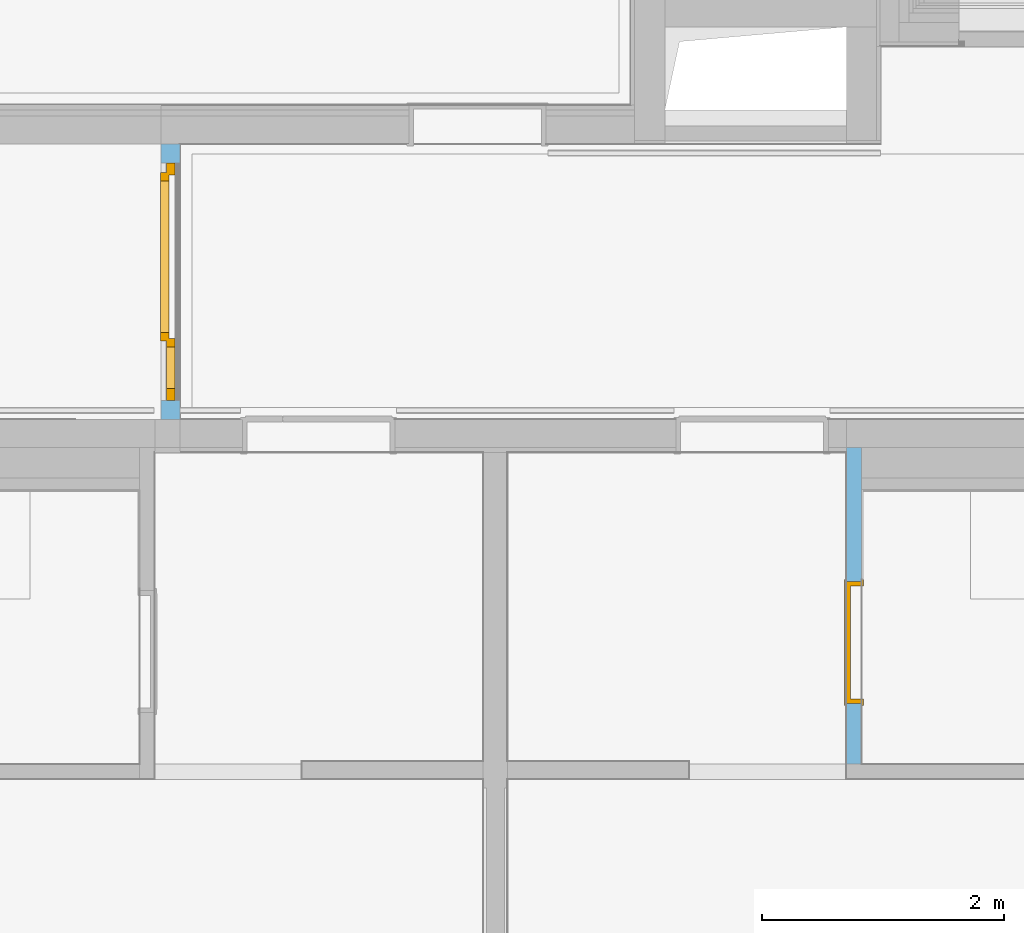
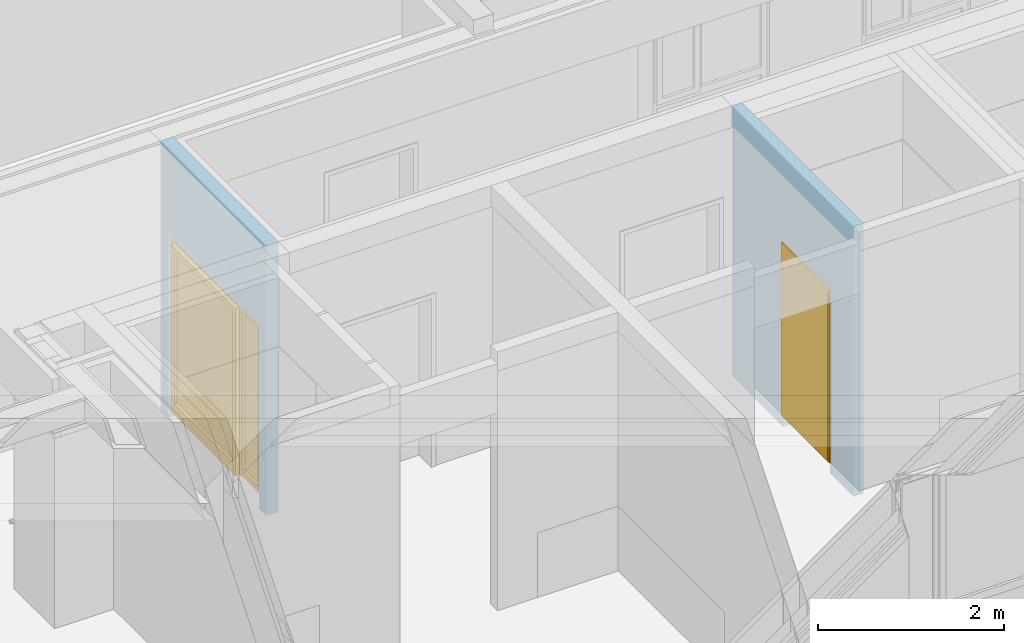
# One storey, part 114 of 222: 2 doors, 2 openings, plus 2 elements that do not belong to this part.
"""IFC4 building model written with IfcOpenShell, lengths in metres."""

import ifcopenshell
import ifcopenshell.guid

model = None  # the IFC model being written
_history = None  # IfcOwnerHistory: only IFC2X3 demands one
_inside = {}  # id of a spatial element -> (the spatial element, [elements in it])
_under = {}  # id of a project, library or spatial element -> (it, [spatial elements below it])
_declared = {}  # id of a project -> (the project, [libraries it declares])
_typed = {}  # id of a type object -> (the type object, [elements of that type])
_made_of = {}  # id of a material, layer set ... -> (it, [elements and type objects made of it])


def new_model(schema):
    """Start an empty IFC model of exactly this schema.

    Asked for "IFC4X3", IfcOpenShell would pick the latest addendum, in which some entities
    have other attributes; the version numbers below select the first issue.
    IFC2X3 requires an IfcOwnerHistory on every rooted entity: one is made here for all.
    """
    global model, _history
    if schema == "IFC4X3":
        model = ifcopenshell.file(schema_version=(4, 3, 0, 0))
    else:
        model = ifcopenshell.file(schema=schema)
    _inside.clear()
    _under.clear()
    _declared.clear()
    _typed.clear()
    _made_of.clear()
    _history = None
    if model.schema == "IFC2X3":
        org = make("IfcOrganization", Name="unknown")
        user = make(
            "IfcPersonAndOrganization",
            ThePerson=make("IfcPerson", FamilyName="unknown"),
            TheOrganization=org,
        )
        app = make(
            "IfcApplication",
            ApplicationDeveloper=org,
            Version="unknown",
            ApplicationFullName="unknown",
            ApplicationIdentifier="unknown",
        )
        _history = make(
            "IfcOwnerHistory",
            OwningUser=user,
            OwningApplication=app,
            ChangeAction="ADDED",
            CreationDate=0,
        )
    return model


def make(cls, **values):
    """One entity of the class cls with the attributes given. An attribute that is None is left unset."""
    return model.create_entity(
        cls, **{name: value for name, value in values.items() if value is not None}
    )


def entity(cls, *values):
    """Any entity or typed value of the class cls, its attributes in the order of the schema. None: left unset."""
    e = model.create_entity(cls)
    for i, value in enumerate(values):
        if value is not None:
            e[i] = value
    return e


def rooted(cls, **values):
    """An entity with a GlobalId (a new one), such as an element, a storey or a relation."""
    return make(cls, GlobalId=ifcopenshell.guid.new(), OwnerHistory=_history, **values)


def si_unit(unit_type, name, prefix=None):
    """IfcSIUnit, for example si_unit("LENGTHUNIT", "METRE", prefix="MILLI")."""
    return make("IfcSIUnit", UnitType=unit_type, Prefix=prefix, Name=name)


def converted_unit(unit_type, name, factor, base, dimensions=None, offset=None):
    """IfcConversionBasedUnit, such as the inch: factor (a typed value) times the base unit."""
    return make(
        "IfcConversionBasedUnit"
        if offset is None
        else "IfcConversionBasedUnitWithOffset",
        ConversionOffset=offset,
        Dimensions=None
        if dimensions is None
        else entity("IfcDimensionalExponents", *dimensions),
        UnitType=unit_type,
        Name=name,
        ConversionFactor=make(
            "IfcMeasureWithUnit", ValueComponent=factor, UnitComponent=base
        ),
    )


def derived_unit(unit_type, elements):
    """IfcDerivedUnit: a product of units, each with its exponent."""
    return make(
        "IfcDerivedUnit",
        Elements=[
            make("IfcDerivedUnitElement", Unit=unit, Exponent=power)
            for unit, power in elements
        ],
        UnitType=unit_type,
    )


def assignment(units):
    """IfcUnitAssignment: the units of a project."""
    return None if units is None else make("IfcUnitAssignment", Units=units)


def point(xyz):
    """IfcCartesianPoint."""
    return None if xyz is None else make("IfcCartesianPoint", Coordinates=xyz)


def direction(xyz):
    """IfcDirection."""
    return None if xyz is None else make("IfcDirection", DirectionRatios=xyz)


def frame(location, z_axis=None, x_axis=None):
    """IfcAxis2Placement3D, a coordinate frame: its origin and axes. An axis left out is left unset."""
    return make(
        "IfcAxis2Placement3D",
        Location=point(location),
        Axis=direction(z_axis),
        RefDirection=direction(x_axis),
    )


def frame_2d(location, x_axis=None):
    """IfcAxis2Placement2D, a coordinate frame in the plane: its origin and x axis."""
    return make(
        "IfcAxis2Placement2D", Location=point(location), RefDirection=direction(x_axis)
    )


def origin():
    """The frame at (0, 0, 0) with its axes left unset."""
    return frame((0.0, 0.0, 0.0))


def origin_with_axes():
    """The frame at (0, 0, 0) with the z axis (0, 0, 1) and the x axis (1, 0, 0) written out."""
    return frame((0.0, 0.0, 0.0), z_axis=(0.0, 0.0, 1.0), x_axis=(1.0, 0.0, 0.0))


def place(relative_to, where):
    """IfcLocalPlacement: puts the frame where relative to a parent placement (None: the world)."""
    return make(
        "IfcLocalPlacement", PlacementRelTo=relative_to, RelativePlacement=where
    )


def context(
    kind, dimensions, precision=None, world=None, true_north=None, identifier=None
):
    """IfcGeometricRepresentationContext, for example the 3D "Model" context."""
    return make(
        "IfcGeometricRepresentationContext",
        ContextIdentifier=identifier,
        ContextType=kind,
        CoordinateSpaceDimension=dimensions,
        Precision=precision,
        WorldCoordinateSystem=world,
        TrueNorth=true_north,
    )


def subcontext(parent, identifier, kind, view, scale=None):
    """IfcGeometricRepresentationSubContext, for example "Body" below "Model"."""
    return make(
        "IfcGeometricRepresentationSubContext",
        ContextIdentifier=identifier,
        ContextType=kind,
        ParentContext=parent,
        TargetScale=scale,
        TargetView=view,
    )


def project(units=None, contexts=None):
    """IfcProject with its units and contexts."""
    return rooted(
        "IfcProject",
        Name="project",
        RepresentationContexts=contexts,
        UnitsInContext=assignment(units),
    )


def spatial(cls, under=None, at=None, **own):
    """A site, building, storey or space (cls), placed at a placement, below another one or the project."""
    s = rooted(cls, ObjectPlacement=at, **own)
    if under is not None:
        _under.setdefault(under.id(), (under, []))[1].append(s)
    return s


def polyline(points):
    """IfcPolyline through the points."""
    return make("IfcPolyline", Points=[point(p) for p in points])


def profile(cls, at=None, kind="AREA", **sizes):
    """A parametric profile (cls). Its sizes go by their IFC names, for example OverallWidth=200.0."""
    return make(cls, ProfileType=kind, Position=at, **sizes)


def rectangle(**sizes):
    """IfcRectangleProfileDef."""
    return profile("IfcRectangleProfileDef", **sizes)


def outline(outer, holes=None, kind="AREA"):
    """IfcArbitraryClosedProfileDef: a profile drawn as a closed curve; with holes, ...WithVoids."""
    if holes is None:
        return make("IfcArbitraryClosedProfileDef", ProfileType=kind, OuterCurve=outer)
    return make(
        "IfcArbitraryProfileDefWithVoids",
        ProfileType=kind,
        OuterCurve=outer,
        InnerCurves=holes,
    )


def extrude(swept, where, along, depth):
    """IfcExtrudedAreaSolid: the profile swept, set in the frame where, extruded along a direction by depth."""
    return make(
        "IfcExtrudedAreaSolid",
        SweptArea=swept,
        Position=where,
        ExtrudedDirection=direction(along),
        Depth=depth,
    )


def faces_of(points, faces, orient=None, outer=None):
    """IfcFace entities. A face is a list of loops; a loop is a list of indices into points, from 0.

    orient and outer hold one flag for each loop. By default every Orientation is true, the
    first loop of a face is its IfcFaceOuterBound and the others are IfcFaceBound.
    """
    made = []
    for i, loops in enumerate(faces):
        bounds = []
        for j, loop in enumerate(loops):
            is_outer = j == 0 if outer is None else outer[i][j]
            bounds.append(
                make(
                    "IfcFaceOuterBound" if is_outer else "IfcFaceBound",
                    Bound=make("IfcPolyLoop", Polygon=[points[k] for k in loop]),
                    Orientation=True if orient is None else orient[i][j],
                )
            )
        made.append(make("IfcFace", Bounds=bounds))
    return made


def closed_shell(faces, orient=None, outer=None):
    """The faces of one IfcClosedShell. faceted_brep and surface_model build it on their shared points."""
    return ("IfcClosedShell", faces, orient, outer)


def open_shell(faces, orient=None, outer=None):
    """The faces of one IfcOpenShell. surface_model builds it on its shared points."""
    return ("IfcOpenShell", faces, orient, outer)


def faceted_brep(points, faces, orient=None, outer=None, voids=None):
    """IfcFacetedBrep: a solid bounded by flat faces; with voids (closed shells), ...WithVoids."""
    shared = [point(p) for p in points]
    hull = make("IfcClosedShell", CfsFaces=faces_of(shared, faces, orient, outer))
    if voids is None:
        return make("IfcFacetedBrep", Outer=hull)
    return make(
        "IfcFacetedBrepWithVoids",
        Outer=hull,
        Voids=[
            make(cls, CfsFaces=faces_of(shared, fs, o, b)) for cls, fs, o, b in voids
        ],
    )


def surface_model(cls, points, shells):
    """IfcFaceBasedSurfaceModel or IfcShellBasedSurfaceModel (cls): surfaces that need not close."""
    shared = [point(p) for p in points]
    made = [make(c, CfsFaces=faces_of(shared, fs, o, b)) for c, fs, o, b in shells]
    if cls == "IfcFaceBasedSurfaceModel":
        return make(cls, FbsmFaces=made)
    return make(cls, SbsmBoundary=made)


def shape(context_of_items, identifier, shape_type, items):
    """IfcShapeRepresentation: the items that make up one representation, for example the "Body"."""
    return make(
        "IfcShapeRepresentation",
        ContextOfItems=context_of_items,
        RepresentationIdentifier=identifier,
        RepresentationType=shape_type,
        Items=items,
    )


def source(mapping_origin, context_of_items, identifier, shape_type, items):
    """IfcRepresentationMap: a shape defined once, which mapped items show again and again."""
    return make(
        "IfcRepresentationMap",
        MappingOrigin=mapping_origin,
        MappedRepresentation=shape(context_of_items, identifier, shape_type, items),
    )


def transform(
    local_origin,
    x_axis=None,
    y_axis=None,
    z_axis=None,
    scale=None,
    scale2=None,
    scale3=None,
    uniform=True,
):
    """IfcCartesianTransformationOperator3D, or its non-uniform kind. x_axis, y_axis, z_axis: its Axis1, 2, 3."""
    if uniform:
        return make(
            "IfcCartesianTransformationOperator3D",
            Axis1=direction(x_axis),
            Axis2=direction(y_axis),
            LocalOrigin=point(local_origin),
            Scale=scale,
            Axis3=direction(z_axis),
        )
    return make(
        "IfcCartesianTransformationOperator3DnonUniform",
        Axis1=direction(x_axis),
        Axis2=direction(y_axis),
        LocalOrigin=point(local_origin),
        Scale=scale,
        Axis3=direction(z_axis),
        Scale2=scale2,
        Scale3=scale3,
    )


def mapped(mapping_source, mapping_target):
    """IfcMappedItem: shows the shape of a source again, moved by a transform."""
    return make(
        "IfcMappedItem", MappingSource=mapping_source, MappingTarget=mapping_target
    )


def material(Name=None, Category=None):
    """IfcMaterial."""
    return make("IfcMaterial", Name=Name, Category=Category)


def made_of(thing, what):
    """Note that an element or type object is made of a material, layer set ...; save() writes the relation."""
    if what is not None:
        _made_of.setdefault(what.id(), (what, []))[1].append(thing)
    return thing


def type_object(cls, material=None, **own):
    """A type object (cls), such as IfcWallType, which elements share."""
    return made_of(rooted(cls, **own), material)


def element(
    cls,
    number,
    at=None,
    inside=None,
    cuts=None,
    type_object=None,
    material=None,
    context=None,
    identifier="Body",
    shape_type=None,
    held_by="IfcProductDefinitionShape",
    body=None,
    shapes=None,
    **own,
):
    """One element of the class cls, such as IfcWall. Its Tag is "e" and its number.

    at: its placement. inside: the storey or other place that contains it. cuts: it is an
    opening in that element (IfcRelVoidsElement). A single representation is given by context,
    identifier, shape_type and body (its items); several are given by shapes. held_by: the class
    of the entity that holds the representations. save() writes the other relations.
    """
    e = rooted(cls, Tag="e%d" % number, ObjectPlacement=at, **own)
    if body is not None:
        shapes = [shape(context, identifier, shape_type, body)]
    if shapes is not None:
        e.Representation = make(held_by, Representations=shapes)
    if inside is not None:
        _inside.setdefault(inside.id(), (inside, []))[1].append(e)
    if cuts is not None:
        rooted(
            "IfcRelVoidsElement", RelatingBuildingElement=cuts, RelatedOpeningElement=e
        )
    if type_object is not None:
        _typed.setdefault(type_object.id(), (type_object, []))[1].append(e)
    return made_of(e, material)


def fill(opening, filler):
    """IfcRelFillsElement: the door or window that sits in an opening."""
    return rooted(
        "IfcRelFillsElement",
        RelatingOpeningElement=opening,
        RelatedBuildingElement=filler,
    )


def aggregate(whole, parts):
    """IfcRelAggregates: a whole, such as a stair, and the parts it consists of."""
    return rooted("IfcRelAggregates", RelatingObject=whole, RelatedObjects=parts)


def save(model, path):
    """Write the relations noted so far, then the file.

    IfcRelAggregates (storeys below a building ...), IfcRelContainedInSpatialStructure (elements
    in a storey), IfcRelDefinesByType, IfcRelAssociatesMaterial and IfcRelDeclares: one each for
    every whole, place, type object, material and project.
    """
    for whole, parts in _under.values():
        aggregate(whole, parts)
    for where, things in _inside.values():
        rooted(
            "IfcRelContainedInSpatialStructure",
            RelatedElements=things,
            RelatingStructure=where,
        )
    for kind, things in _typed.values():
        rooted("IfcRelDefinesByType", RelatedObjects=things, RelatingType=kind)
    for what, things in _made_of.values():
        rooted("IfcRelAssociatesMaterial", RelatedObjects=things, RelatingMaterial=what)
    for by, libraries in _declared.values():
        rooted("IfcRelDeclares", RelatingContext=by, RelatedDefinitions=libraries)
    model.write(path)


model = new_model("IFC4")

# Units and contexts
model_context = context("Model", 3, precision=1e-05, world=origin())
body_context = subcontext(model_context, "Body", "Model", "MODEL_VIEW")
ifc_project = project(units=[si_unit("LENGTHUNIT", "METRE"), si_unit("AREAUNIT", "SQUARE_METRE"), si_unit("VOLUMEUNIT", "CUBIC_METRE"), si_unit("MASSUNIT", "GRAM", prefix="KILO"), converted_unit("PLANEANGLEUNIT", "DEGREE", entity("IfcPlaneAngleMeasure", 0.0174532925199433), si_unit("PLANEANGLEUNIT", "RADIAN"), dimensions=[0, 0, 0, 0, 0, 0, 0]), derived_unit("THERMALTRANSMITTANCEUNIT", [(si_unit("POWERUNIT", "WATT"), 1), (si_unit("THERMODYNAMICTEMPERATUREUNIT", "KELVIN"), -1), (si_unit("LENGTHUNIT", "METRE"), -2)]), derived_unit("VOLUMETRICFLOWRATEUNIT", [(si_unit("LENGTHUNIT", "METRE"), 3), (converted_unit("TIMEUNIT", "hour", entity("IfcTimeMeasure", 3600.0), si_unit("TIMEUNIT", "SECOND"), dimensions=[0, 0, 1, 0, 0, 0, 0]), -1), (si_unit("LENGTHUNIT", "METRE"), -1)])], contexts=[model_context])

# Site, building, storey
site_placement = place(None, origin())
site = spatial("IfcSite", under=ifc_project, at=site_placement, Name="Psychiatrie Neubau Wunstorf", CompositionType="ELEMENT")
building_placement = place(site_placement, origin())
building = spatial("IfcBuilding", under=site, at=building_placement, Name="Neubau H2 Stationsgebäude", CompositionType="ELEMENT")
storey_placement = place(building_placement, frame((0.0, 0.0, 3.6)))
storey = spatial("IfcBuildingStorey", under=building, at=storey_placement, Name="H2 Ebene +1", CompositionType="ELEMENT", Elevation=3.6)

# Wall, opening, door
ifc_material_1 = material(Name="WI-LB")
wall_1_placement = place(storey_placement, frame((78.9, 5.1005, 0.0), z_axis=(0.0, 0.0, 1.0), x_axis=(0.0, -1.0, 0.0)))
wall_1 = element("IfcWall", 1, at=wall_1_placement, inside=storey, material=ifc_material_1, context=body_context, shape_type="SweptSolid", body=[
    extrude(rectangle(XDim=2.61499999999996, YDim=0.125, at=frame_2d((1.30749999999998, 0.0625), x_axis=(1.0, 0.0))), origin_with_axes(), (0.0, 0.0, 1.0), 3.55),
])
opening_1_placement = place(wall_1_placement, frame((2.11499999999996, 0.125, 0.0), z_axis=(0.0, -1.0, 0.0), x_axis=(0.0, 0.0, 1.0)))
opening_1 = element("IfcOpeningElement", 2, at=opening_1_placement, cuts=wall_1, Name="Türöffnung", ObjectType="Opening", context=body_context, shape_type="SweptSolid", body=[
    extrude(outline(polyline([(2.41, 1.01), (2.41, 0.0), (0.0, 0.0), (0.0, 1.01), (2.41, 1.01)])), origin_with_axes(), (0.0, 0.0, 1.0), 0.125),
])
ifc_material_2 = material(Name="TI-1F-UZ-D-N")
door_type = type_object("IfcDoorType", Name="SMT", OperationType="SINGLE_SWING_RIGHT", ParameterTakesPrecedence=False, PredefinedType="DOOR")
shared_shape_1 = source(origin_with_axes(), body_context, "Body", "Brep", [
    faceted_brep([(1.05, 0.0125000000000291, 0.0), (1.05, 0.112500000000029, 0.0), (1.01, 0.112500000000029, 0.0), (1.01, 0.0125000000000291, 0.0), (1.05, 0.112500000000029, 3.55), (1.05, 0.0125000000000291, 3.55), (1.01, 0.0125000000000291, 3.55), (1.01, 0.112500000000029, 3.55)], [[[0, 1, 2, 3]], [[4, 5, 6, 7]], [[1, 0, 5, 4]], [[2, 1, 4, 7]], [[3, 2, 7, 6]], [[0, 3, 6, 5]]], orient=[[False], [False], [False], [False], [False], [False]]),
    faceted_brep([(0.0, 0.0125000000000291, 0.0), (0.0, 0.112500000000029, 0.0), (-0.0400000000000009, 0.112500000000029, 0.0), (-0.0400000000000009, 0.0125000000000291, 0.0), (0.0, 0.112500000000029, 3.55), (0.0, 0.0125000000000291, 3.55), (-0.0400000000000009, 0.0125000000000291, 3.55), (-0.0400000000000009, 0.112500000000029, 3.55)], [[[0, 1, 2, 3]], [[4, 5, 6, 7]], [[1, 0, 5, 4]], [[2, 1, 4, 7]], [[3, 2, 7, 6]], [[0, 3, 6, 5]]], orient=[[False], [False], [False], [False], [False], [False]]),
    faceted_brep([(1.01, 0.0125000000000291, 2.41), (1.01, 0.112500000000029, 2.41), (0.0, 0.112500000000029, 2.41), (0.0, 0.0125000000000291, 2.41), (1.01, 0.112500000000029, 2.45), (1.01, 0.0125000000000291, 2.45), (0.0, 0.0125000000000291, 2.45), (0.0, 0.112500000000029, 2.45)], [[[0, 1, 2, 3]], [[4, 5, 6, 7]], [[1, 0, 5, 4]], [[2, 1, 4, 7]], [[3, 2, 7, 6]], [[0, 3, 6, 5]]], orient=[[False], [False], [False], [False], [False], [False]]),
])
shared_shape_2 = source(origin_with_axes(), body_context, "Body", "Brep", [
    faceted_brep([(1.01, -0.0149999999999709, 2.41), (1.01, -0.0149999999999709, 0.15), (0.969999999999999, -0.0149999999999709, 0.15), (0.969999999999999, -0.0149999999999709, 2.41), (1.01, 0.140000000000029, 0.15), (1.01, 0.140000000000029, 2.41), (0.969999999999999, 0.140000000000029, 2.41), (0.969999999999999, 0.140000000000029, 0.15)], [[[0, 1, 2, 3]], [[4, 5, 6, 7]], [[1, 0, 5, 4]], [[2, 1, 4, 7]], [[3, 2, 7, 6]], [[0, 3, 6, 5]]], orient=[[False], [False], [False], [False], [False], [False]]),
    faceted_brep([(1.01, -0.0149999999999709, 2.425), (1.025, -0.0149999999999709, 2.425), (1.025, -0.0149999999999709, 0.15), (1.01, -0.0149999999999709, 0.15), (1.01, 0.0, 0.15), (1.025, 0.0, 0.15), (1.025, 0.0, 2.425), (1.01, 0.0, 2.425)], [[[0, 1, 2, 3]], [[4, 5, 6, 7]], [[3, 4, 7, 0]], [[2, 5, 4, 3]], [[1, 6, 5, 2]], [[0, 7, 6, 1]]], orient=[[False], [False], [False], [False], [False], [False]]),
    faceted_brep([(1.01, 0.125000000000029, 2.425), (1.025, 0.125000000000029, 2.425), (1.025, 0.125000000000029, 0.15), (1.01, 0.125000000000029, 0.15), (1.01, 0.140000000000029, 0.15), (1.025, 0.140000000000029, 0.15), (1.025, 0.140000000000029, 2.425), (1.01, 0.140000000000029, 2.425)], [[[0, 1, 2, 3]], [[4, 5, 6, 7]], [[3, 4, 7, 0]], [[2, 5, 4, 3]], [[1, 6, 5, 2]], [[0, 7, 6, 1]]], orient=[[False], [False], [False], [False], [False], [False]]),
    faceted_brep([(0.0399999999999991, -0.0149999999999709, 2.41), (0.0399999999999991, -0.0149999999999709, 0.15), (0.0, -0.0149999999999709, 0.15), (0.0, -0.0149999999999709, 2.41), (0.0399999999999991, 0.140000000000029, 0.15), (0.0399999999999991, 0.140000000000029, 2.41), (0.0, 0.140000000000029, 2.41), (0.0, 0.140000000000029, 0.15)], [[[0, 1, 2, 3]], [[4, 5, 6, 7]], [[1, 0, 5, 4]], [[2, 1, 4, 7]], [[3, 2, 7, 6]], [[0, 3, 6, 5]]], orient=[[False], [False], [False], [False], [False], [False]]),
    faceted_brep([(0.0, -0.0149999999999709, 2.425), (0.0, -0.0149999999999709, 0.15), (-0.0150000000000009, -0.0149999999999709, 0.15), (-0.0150000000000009, -0.0149999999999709, 2.425), (0.0, 0.0, 0.15), (0.0, 0.0, 2.425), (-0.0150000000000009, 0.0, 2.425), (-0.0150000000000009, 0.0, 0.15)], [[[0, 1, 2, 3]], [[4, 5, 6, 7]], [[1, 0, 5, 4]], [[2, 1, 4, 7]], [[3, 2, 7, 6]], [[0, 3, 6, 5]]], orient=[[False], [False], [False], [False], [False], [False]]),
    faceted_brep([(0.0, 0.125000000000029, 2.425), (0.0, 0.125000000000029, 0.15), (-0.0150000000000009, 0.125000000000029, 0.15), (-0.0150000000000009, 0.125000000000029, 2.425), (0.0, 0.140000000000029, 0.15), (0.0, 0.140000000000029, 2.425), (-0.0150000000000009, 0.140000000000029, 2.425), (-0.0150000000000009, 0.140000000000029, 0.15)], [[[0, 1, 2, 3]], [[4, 5, 6, 7]], [[1, 0, 5, 4]], [[2, 1, 4, 7]], [[3, 2, 7, 6]], [[0, 3, 6, 5]]], orient=[[False], [False], [False], [False], [False], [False]]),
    faceted_brep([(0.969999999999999, -0.0149999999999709, 2.41), (0.969999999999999, -0.0149999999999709, 2.37), (0.0399999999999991, -0.0149999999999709, 2.37), (0.0399999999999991, -0.0149999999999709, 2.41), (0.969999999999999, 0.140000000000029, 2.37), (0.969999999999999, 0.140000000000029, 2.41), (0.0399999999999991, 0.140000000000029, 2.41), (0.0399999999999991, 0.140000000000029, 2.37)], [[[0, 1, 2, 3]], [[4, 5, 6, 7]], [[1, 0, 5, 4]], [[2, 1, 4, 7]], [[3, 2, 7, 6]], [[0, 3, 6, 5]]], orient=[[False], [False], [False], [False], [False], [False]]),
    faceted_brep([(1.01, -0.0149999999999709, 2.425), (1.01, -0.0149999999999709, 2.41), (0.0, -0.0149999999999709, 2.41), (0.0, -0.0149999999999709, 2.425), (1.01, 0.0, 2.41), (1.01, 0.0, 2.425), (0.0, 0.0, 2.425), (0.0, 0.0, 2.41)], [[[0, 1, 2, 3]], [[4, 5, 6, 7]], [[1, 0, 5, 4]], [[2, 1, 4, 7]], [[3, 2, 7, 6]], [[0, 3, 6, 5]]], orient=[[False], [False], [False], [False], [False], [False]]),
    faceted_brep([(1.01, 0.125000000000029, 2.425), (1.01, 0.125000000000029, 2.41), (0.0, 0.125000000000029, 2.41), (0.0, 0.125000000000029, 2.425), (1.01, 0.140000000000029, 2.41), (1.01, 0.140000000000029, 2.425), (0.0, 0.140000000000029, 2.425), (0.0, 0.140000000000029, 2.41)], [[[0, 1, 2, 3]], [[4, 5, 6, 7]], [[1, 0, 5, 4]], [[2, 1, 4, 7]], [[3, 2, 7, 6]], [[0, 3, 6, 5]]], orient=[[False], [False], [False], [False], [False], [False]]),
    faceted_brep([(0.984999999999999, 0.0910000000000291, 2.385), (0.984999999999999, 0.0910000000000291, 0.15), (0.0249999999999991, 0.0910000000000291, 0.15), (0.0249999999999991, 0.0910000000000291, 2.385), (0.984999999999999, 0.141000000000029, 0.15), (0.984999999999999, 0.141000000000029, 2.385), (0.0249999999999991, 0.141000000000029, 2.385), (0.0249999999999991, 0.141000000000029, 0.15)], [[[0, 1, 2, 3]], [[4, 5, 6, 7]], [[1, 0, 5, 4]], [[2, 1, 4, 7]], [[3, 2, 7, 6]], [[0, 3, 6, 5]]], orient=[[False], [False], [False], [False], [False], [False]]),
])
door_1_placement = place(opening_1_placement, frame((0.0, 0.0, 0.0), z_axis=(1.0, 0.0, 0.0), x_axis=(0.0, 1.0, 0.0)))
door_1 = element("IfcDoor", 3, at=door_1_placement, inside=storey, type_object=door_type, material=ifc_material_2, Name="SMT", OverallHeight=2.41, OverallWidth=1.01, context=body_context, shape_type="MappedRepresentation", body=[
    mapped(shared_shape_1, transform((0.0, 0.0, 0.0), x_axis=(1.0, 0.0, 0.0), y_axis=(0.0, 1.0, 0.0), z_axis=(0.0, 0.0, 1.0), scale=1.0)),
    mapped(shared_shape_2, transform((0.0, 0.0, 0.0), x_axis=(1.0, 0.0, 0.0), y_axis=(0.0, 1.0, 0.0), z_axis=(0.0, 0.0, 1.0), scale=1.0)),
])
fill(opening_1, door_1)

ifc_material_3 = material(Name="WI-LB")
wall_2_placement = place(storey_placement, frame((73.3949999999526, 5.33250000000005, 0.0), z_axis=(0.0, 0.0, 1.0), x_axis=(0.0, 1.0, 0.0)))
wall_2 = element("IfcWall", 4, at=wall_2_placement, inside=storey, material=ifc_material_3, context=body_context, shape_type="SweptSolid", body=[
    extrude(rectangle(XDim=2.275, YDim=0.155, at=frame_2d((1.1375, 0.0775), x_axis=(1.0, 0.0))), origin_with_axes(), (0.0, 0.0, 1.0), 3.55),
])
opening_2_placement = place(wall_2_placement, frame((0.154999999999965, 0.0, 0.0), z_axis=(0.0, 1.0, 0.0), x_axis=(0.0, 0.0, 1.0)))
opening_2 = element("IfcOpeningElement", 5, at=opening_2_placement, cuts=wall_2, Name="Türöffnung", ObjectType="Opening", context=body_context, shape_type="SweptSolid", body=[
    extrude(outline(polyline([(2.41, 1.965), (2.41, 0.0), (0.0, 0.0), (0.0, 1.965), (2.41, 1.965)])), origin_with_axes(), (0.0, 0.0, 1.0), 0.155),
])
ifc_material_4 = material(Name="TI-2F-AG-D-O")
shared_shape_3 = source(origin_with_axes(), body_context, "Body", "Brep", [
    faceted_brep([(2.0925, 0.0850000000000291, 0.0), (1.9925, 0.0850000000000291, 0.0), (1.9925, -0.0149999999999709, 0.0), (2.0925, -0.0149999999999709, 0.0), (2.0925, -0.0149999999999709, 3.55), (1.9925, -0.0149999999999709, 3.55), (1.9925, 0.0850000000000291, 3.55), (2.0925, 0.0850000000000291, 3.55)], [[[0, 1, 2, 3]], [[4, 5, 6, 7]], [[3, 4, 7, 0]], [[2, 5, 4, 3]], [[1, 6, 5, 2]], [[0, 7, 6, 1]]], orient=[[False], [False], [False], [False], [False], [False]]),
    faceted_brep([(-0.0275000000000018, 0.0850000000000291, 0.0), (-0.127500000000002, 0.0850000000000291, 0.0), (-0.127500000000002, -0.0149999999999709, 0.0), (-0.0275000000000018, -0.0149999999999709, 0.0), (-0.0275000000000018, -0.0149999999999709, 3.55), (-0.127500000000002, -0.0149999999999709, 3.55), (-0.127500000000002, 0.0850000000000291, 3.55), (-0.0275000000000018, 0.0850000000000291, 3.55)], [[[0, 1, 2, 3]], [[4, 5, 6, 7]], [[3, 4, 7, 0]], [[2, 5, 4, 3]], [[1, 6, 5, 2]], [[0, 7, 6, 1]]], orient=[[False], [False], [False], [False], [False], [False]]),
    faceted_brep([(1.9925, 0.0850000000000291, 2.4375), (-0.0275000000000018, 0.0850000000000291, 2.4375), (-0.0275000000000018, -0.0149999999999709, 2.4375), (1.9925, -0.0149999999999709, 2.4375), (1.9925, -0.0149999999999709, 2.5375), (-0.0275000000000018, -0.0149999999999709, 2.5375), (-0.0275000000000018, 0.0850000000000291, 2.5375), (1.9925, 0.0850000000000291, 2.5375)], [[[0, 1, 2, 3]], [[4, 5, 6, 7]], [[3, 4, 7, 0]], [[2, 5, 4, 3]], [[1, 6, 5, 2]], [[0, 7, 6, 1]]], orient=[[False], [False], [False], [False], [False], [False]]),
])
shared_shape_4 = source(origin_with_axes(), body_context, "Body", "SurfaceModel", [
    surface_model("IfcShellBasedSurfaceModel", [(1.965, 0.0, 2.41), (1.965, 0.0, 0.15), (1.865, 0.0, 0.15), (1.865, 0.0, 2.41), (1.965, 0.0700000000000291, 0.15), (1.965, 0.0700000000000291, 2.41), (1.865, 0.0700000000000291, 2.41), (1.865, 0.0700000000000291, 0.15)], [closed_shell([[[0, 1, 2, 3]], [[4, 5, 6, 7]], [[1, 0, 5, 4]], [[2, 1, 4, 7]], [[3, 2, 7, 6]], [[0, 3, 6, 5]]], orient=[[False], [False], [False], [False], [False], [False]])]),
    surface_model("IfcShellBasedSurfaceModel", [(0.0999999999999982, 0.0, 2.41), (0.0999999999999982, 0.0, 0.15), (0.0, 0.0, 0.15), (0.0, 0.0, 2.41), (0.0999999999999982, 0.0700000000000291, 0.15), (0.0999999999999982, 0.0700000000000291, 2.41), (0.0, 0.0700000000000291, 2.41), (0.0, 0.0700000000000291, 0.15)], [closed_shell([[[0, 1, 2, 3]], [[4, 5, 6, 7]], [[1, 0, 5, 4]], [[2, 1, 4, 7]], [[3, 2, 7, 6]], [[0, 3, 6, 5]]], orient=[[False], [False], [False], [False], [False], [False]])]),
    surface_model("IfcShellBasedSurfaceModel", [(1.865, 0.0, 2.41), (1.865, 0.0, 2.31), (0.0999999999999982, 0.0, 2.31), (0.0999999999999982, 0.0, 2.41), (1.865, 0.0700000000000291, 2.31), (1.865, 0.0700000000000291, 2.41), (0.0999999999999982, 0.0700000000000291, 2.41), (0.0999999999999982, 0.0700000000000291, 2.31)], [closed_shell([[[0, 1, 2, 3]], [[4, 5, 6, 7]], [[1, 0, 5, 4]], [[2, 1, 4, 7]], [[3, 2, 7, 6]], [[0, 3, 6, 5]]], orient=[[False], [False], [False], [False], [False], [False]])]),
    surface_model("IfcShellBasedSurfaceModel", [(0.514999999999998, 0.0, 2.31), (0.514999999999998, 0.0, 0.15), (0.444999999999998, 0.0, 0.15), (0.444999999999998, 0.0, 2.31), (0.514999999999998, 0.0700000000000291, 0.15), (0.514999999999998, 0.0700000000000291, 2.31), (0.444999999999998, 0.0700000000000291, 2.31), (0.444999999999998, 0.0700000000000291, 0.15)], [closed_shell([[[0, 1, 2, 3]], [[4, 5, 6, 7]], [[1, 0, 5, 4]], [[2, 1, 4, 7]], [[3, 2, 7, 6]], [[0, 3, 6, 5]]], orient=[[False], [False], [False], [False], [False], [False]])]),
    surface_model("IfcShellBasedSurfaceModel", [(1.885, 0.0500000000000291, 2.33), (1.885, 0.0500000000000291, 0.13), (1.815, 0.0500000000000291, 0.13), (1.815, 0.0500000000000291, 2.33), (1.885, 0.120000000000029, 0.13), (1.885, 0.120000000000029, 2.33), (1.815, 0.120000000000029, 2.33), (1.815, 0.120000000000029, 0.13)], [closed_shell([[[0, 1, 2, 3]], [[4, 5, 6, 7]], [[1, 0, 5, 4]], [[2, 1, 4, 7]], [[3, 2, 7, 6]], [[0, 3, 6, 5]]], orient=[[False], [False], [False], [False], [False], [False]])]),
    surface_model("IfcShellBasedSurfaceModel", [(0.564999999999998, 0.0500000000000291, 2.33), (0.564999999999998, 0.0500000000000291, 0.13), (0.494999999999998, 0.0500000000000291, 0.13), (0.494999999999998, 0.0500000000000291, 2.33), (0.564999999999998, 0.120000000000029, 0.13), (0.564999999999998, 0.120000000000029, 2.33), (0.494999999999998, 0.120000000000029, 2.33), (0.494999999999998, 0.120000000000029, 0.13)], [closed_shell([[[0, 1, 2, 3]], [[4, 5, 6, 7]], [[1, 0, 5, 4]], [[2, 1, 4, 7]], [[3, 2, 7, 6]], [[0, 3, 6, 5]]], orient=[[False], [False], [False], [False], [False], [False]])]),
    surface_model("IfcShellBasedSurfaceModel", [(1.815, 0.0500000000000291, 0.28), (1.815, 0.0500000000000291, 0.13), (0.564999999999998, 0.0500000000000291, 0.13), (0.564999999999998, 0.0500000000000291, 0.28), (1.815, 0.120000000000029, 0.13), (1.815, 0.120000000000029, 0.28), (0.564999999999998, 0.120000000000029, 0.28), (0.564999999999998, 0.120000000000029, 0.13)], [closed_shell([[[0, 1, 2, 3]], [[4, 5, 6, 7]], [[1, 0, 5, 4]], [[2, 1, 4, 7]], [[3, 2, 7, 6]], [[0, 3, 6, 5]]], orient=[[False], [False], [False], [False], [False], [False]])]),
    surface_model("IfcShellBasedSurfaceModel", [(1.815, 0.0500000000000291, 2.33), (1.815, 0.0500000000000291, 2.26), (0.564999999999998, 0.0500000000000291, 2.26), (0.564999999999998, 0.0500000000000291, 2.33), (1.815, 0.120000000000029, 2.26), (1.815, 0.120000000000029, 2.33), (0.564999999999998, 0.120000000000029, 2.33), (0.564999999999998, 0.120000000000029, 2.26)], [closed_shell([[[0, 1, 2, 3]], [[4, 5, 6, 7]], [[1, 0, 5, 4]], [[2, 1, 4, 7]], [[3, 2, 7, 6]], [[0, 3, 6, 5]]], orient=[[False], [False], [False], [False], [False], [False]])]),
    surface_model("IfcShellBasedSurfaceModel", [(0.444999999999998, 0.0, 0.22), (0.444999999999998, 0.0, 0.15), (0.0999999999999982, 0.0, 0.15), (0.0999999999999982, 0.0, 0.22), (0.444999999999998, 0.0700000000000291, 0.15), (0.444999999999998, 0.0700000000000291, 0.22), (0.0999999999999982, 0.0700000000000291, 0.22), (0.0999999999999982, 0.0700000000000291, 0.15)], [closed_shell([[[0, 1, 2, 3]], [[4, 5, 6, 7]], [[1, 0, 5, 4]], [[2, 1, 4, 7]], [[3, 2, 7, 6]], [[0, 3, 6, 5]]], orient=[[False], [False], [False], [False], [False], [False]])]),
    surface_model("IfcShellBasedSurfaceModel", [(1.815, 0.0850000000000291, 0.28), (0.564999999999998, 0.0850000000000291, 0.28), (0.564999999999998, 0.0850000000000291, 2.26), (1.815, 0.0850000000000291, 2.26)], [open_shell([[[0, 1, 2, 3]]], orient=[[False]])]),
    surface_model("IfcShellBasedSurfaceModel", [(0.444999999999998, 0.0350000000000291, 0.22), (0.0999999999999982, 0.0350000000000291, 0.22), (0.0999999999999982, 0.0350000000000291, 2.31), (0.444999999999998, 0.0350000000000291, 2.31)], [open_shell([[[0, 1, 2, 3]]], orient=[[False]])]),
])
door_2_placement = place(opening_2_placement, frame((0.0, 0.0, 0.04), z_axis=(1.0, 0.0, 0.0), x_axis=(0.0, 1.0, 0.0)))
door_2 = element("IfcDoor", 6, at=door_2_placement, inside=storey, material=ifc_material_4, Name="SMT", OperationType="USERDEFINED", OverallHeight=2.41, OverallWidth=1.965, PredefinedType="DOOR", context=body_context, shape_type="MappedRepresentation", body=[
    mapped(shared_shape_3, transform((0.0, 0.0, 0.0), x_axis=(1.0, 0.0, 0.0), y_axis=(0.0, 1.0, 0.0), z_axis=(0.0, 0.0, 1.0), scale=1.0)),
    mapped(shared_shape_4, transform((0.0, 0.0, 0.0), x_axis=(1.0, 0.0, 0.0), y_axis=(0.0, 1.0, 0.0), z_axis=(0.0, 0.0, 1.0), scale=1.0)),
])
fill(opening_2, door_2)

save(model, "model.ifc")
